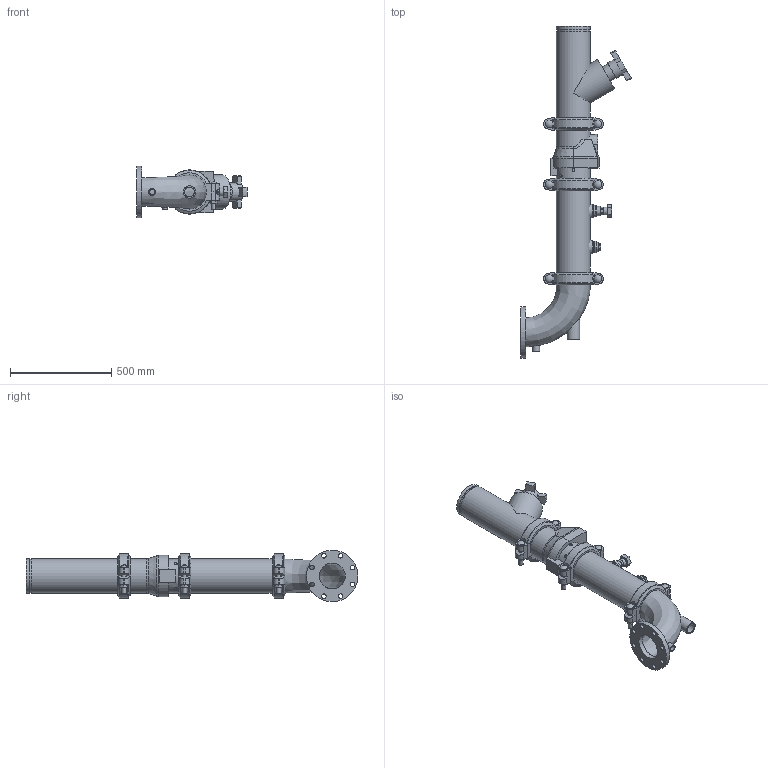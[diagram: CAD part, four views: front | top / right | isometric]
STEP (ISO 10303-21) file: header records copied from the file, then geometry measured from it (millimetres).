
FILE_DESCRIPTION(/* description */ ('VIC DVI PUMP DROP HORZ S/383 (OGSxFLG) (S/924-1.25)','CAx-IF Rec.Pracs.---Representation and Presentation of Product Manufacturing Information (PMI)---4.0---2014-10-13'),/* implementation_level */ '2;1');
FILE_NAME(/* name */ 'C:\Users\kkamble\AppData\Roaming\Autodesk\ApplicationPlugins\Victaulic.Temp\A821\CL 150_Series 383 (OGSxFLG)_924 (1.25)_06.0x05.0 (150x125).stp',/* time_stamp */ '2022-03-16T18:46:11+05:00',/* author */ ('kkamble'),/* organization */ ('Victaulic'),/* preprocessor_version */ 'ST-DEVELOPER v17.2',/* originating_system */ 'Autodesk Inventor 2019',/* authorisation */ '');
FILE_SCHEMA (('AP242_MANAGED_MODEL_BASED_3D_ENGINEERING_MIM_LF { 1 0 10303 442 1 1 4 }'));
Length unit declared in the file: inch
Products named in the file (8): 383_924 (1.25)-06.0x05.0; Pipe-06.0x04.0; 789-06.0; 177N-06.0; 779-06.0; 924-04.0x01.25; 923-04.0x0.75; R100F-06.0x05.0
Assembly tree (9 placements, depth 2):
  383_924 (1.25)-06.0x05.0
    177N-06.0  x3
    Pipe-06.0x04.0
    789-06.0
    779-06.0
    924-04.0x01.25
    923-04.0x0.75
    R100F-06.0x05.0
Bounding box: 546.1 x 1638.3 x 254 mm (x, y, z)
Volume: 15487393.3 mm3; surface area: 2506977.2 mm2
Topology: 9 solids, 10 shells, 543 faces, 1425 edges, 957 vertices
Faces by surface type: plane 316, cylinder 180, torus 18, cone 17, sphere 6, bspline 6
Full cylindrical faces by diameter (mm): 13.716 x4, 21.209 x6, 21.336 x1, 22.352 x8, 26.67 x3, 34.29 x1, 37.694 x6, 38.608 x1, 42.164 x1, 45.974 x4, 48.26 x1, 48.514 x1, 55.626 x2, 60.96 x1, 79.375 x1, 88.9 x1, 128.194 x1, 154.051 x4, 155.575 x3, 163.957 x7, 168.275 x18, 254 x1
Entity records: 13227 total; most frequent: CARTESIAN_POINT 3520, DIRECTION 1983, ORIENTED_EDGE 1830, EDGE_CURVE 915, AXIS2_PLACEMENT_3D 757, VERTEX_POINT 621, LINE 469, VECTOR 469
